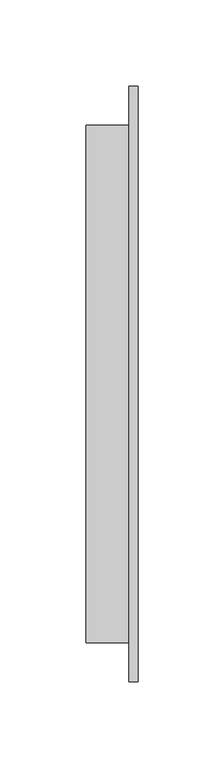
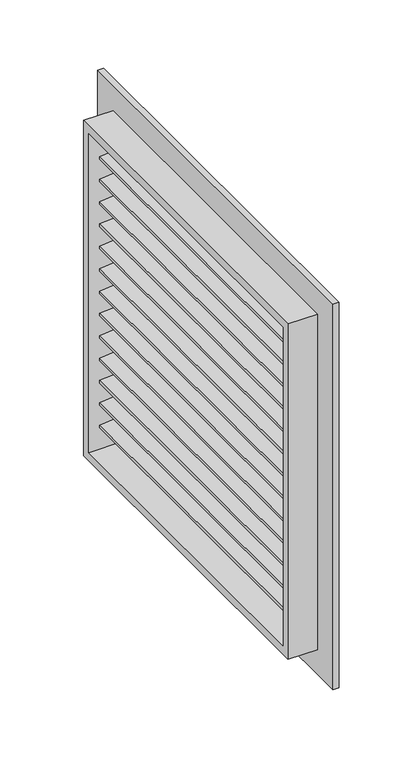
"""IFC4 building model written with IfcOpenShell, lengths in millimetres: air terminal geometry, BL_РешеткаПрямоугольная_Приточная_LVO : BL_РешеткаПрямоугольная_Приточная_LVO."""

from ifc_helpers import new_model, si_unit, point, frame, frame_2d, origin, place, context, project, spatial, polyline, circle_curve, trimmed, segment, composite_curve, outline, extrude, faceted_brep, source, transform, mapped, element, save


def air_terminal_2eded44f(model_context):
    return source(origin(), model_context, "Body", "SolidModel", [
        extrude(outline(composite_curve([segment(polyline([(116.3333333, 9.5), (115.1666667, 22.391254)]), True, "CONTINUOUS"), segment(trimmed(circle_curve(frame_2d((117.5, 25.0)), 3.5), [point((115.1666667, 22.391254))], [point((119.8333333, 22.391254))], False, "CARTESIAN"), True, "CONTINUOUS"), segment(polyline([(119.8333333, 22.391254), (118.6666667, 9.5), (116.3333333, 9.5)]), True, "CONTINUOUS")], self_intersect=False)), frame((0.0, -142.5, 0.0), z_axis=(0.0, 1.0, 0.0), x_axis=(0.0, 0.0, 1.0)), (0.0, 0.0, 1.0), 285.0),
        extrude(outline(composite_curve([segment(polyline([(96.3333333, 9.5), (95.1666667, 22.391254)]), True, "CONTINUOUS"), segment(trimmed(circle_curve(frame_2d((97.5, 25.0)), 3.5), [point((95.1666667, 22.391254))], [point((99.8333333, 22.391254))], False, "CARTESIAN"), True, "CONTINUOUS"), segment(polyline([(99.8333333, 22.391254), (98.6666667, 9.5), (96.3333333, 9.5)]), True, "CONTINUOUS")], self_intersect=False)), frame((0.0, -142.5, 0.0), z_axis=(0.0, 1.0, 0.0), x_axis=(0.0, 0.0, 1.0)), (0.0, 0.0, 1.0), 285.0),
        extrude(outline(composite_curve([segment(polyline([(76.3333333, 9.5), (75.1666667, 22.391254)]), True, "CONTINUOUS"), segment(trimmed(circle_curve(frame_2d((77.5, 25.0)), 3.5), [point((75.1666667, 22.391254))], [point((79.8333333, 22.391254))], False, "CARTESIAN"), True, "CONTINUOUS"), segment(polyline([(79.8333333, 22.391254), (78.6666667, 9.5), (76.3333333, 9.5)]), True, "CONTINUOUS")], self_intersect=False)), frame((0.0, -142.5, 0.0), z_axis=(0.0, 1.0, 0.0), x_axis=(0.0, 0.0, 1.0)), (0.0, 0.0, 1.0), 285.0),
        extrude(outline(composite_curve([segment(polyline([(56.3333333, 9.5), (55.1666667, 22.391254)]), True, "CONTINUOUS"), segment(trimmed(circle_curve(frame_2d((57.5, 25.0)), 3.5), [point((55.1666667, 22.391254))], [point((59.8333333, 22.391254))], False, "CARTESIAN"), True, "CONTINUOUS"), segment(polyline([(59.8333333, 22.391254), (58.6666667, 9.5), (56.3333333, 9.5)]), True, "CONTINUOUS")], self_intersect=False)), frame((0.0, -142.5, 0.0), z_axis=(0.0, 1.0, 0.0), x_axis=(0.0, 0.0, 1.0)), (0.0, 0.0, 1.0), 285.0),
        extrude(outline(composite_curve([segment(polyline([(36.3333333, 9.5), (35.1666667, 22.391254)]), True, "CONTINUOUS"), segment(trimmed(circle_curve(frame_2d((37.5, 25.0)), 3.5), [point((35.1666667, 22.391254))], [point((39.8333333, 22.391254))], False, "CARTESIAN"), True, "CONTINUOUS"), segment(polyline([(39.8333333, 22.391254), (38.6666667, 9.5), (36.3333333, 9.5)]), True, "CONTINUOUS")], self_intersect=False)), frame((0.0, -142.5, 0.0), z_axis=(0.0, 1.0, 0.0), x_axis=(0.0, 0.0, 1.0)), (0.0, 0.0, 1.0), 285.0),
        extrude(outline(composite_curve([segment(polyline([(16.3333333, 9.5), (15.1666667, 22.391254)]), True, "CONTINUOUS"), segment(trimmed(circle_curve(frame_2d((17.5, 25.0)), 3.5), [point((15.1666667, 22.391254))], [point((19.8333333, 22.391254))], False, "CARTESIAN"), True, "CONTINUOUS"), segment(polyline([(19.8333333, 22.391254), (18.6666667, 9.5), (16.3333333, 9.5)]), True, "CONTINUOUS")], self_intersect=False)), frame((0.0, -142.5, 0.0), z_axis=(0.0, 1.0, 0.0), x_axis=(0.0, 0.0, 1.0)), (0.0, 0.0, 1.0), 285.0),
        extrude(outline(composite_curve([segment(polyline([(-3.6666667, 9.5), (-4.8333333, 22.391254)]), True, "CONTINUOUS"), segment(trimmed(circle_curve(frame_2d((-2.5, 25.0)), 3.5), [point((-4.8333333, 22.391254))], [point((-0.1666667, 22.391254))], False, "CARTESIAN"), True, "CONTINUOUS"), segment(polyline([(-0.1666667, 22.391254), (-1.3333333, 9.5), (-3.6666667, 9.5)]), True, "CONTINUOUS")], self_intersect=False)), frame((0.0, -142.5, 0.0), z_axis=(0.0, 1.0, 0.0), x_axis=(0.0, 0.0, 1.0)), (0.0, 0.0, 1.0), 285.0),
        extrude(outline(composite_curve([segment(polyline([(-23.6666667, 9.5), (-24.8333333, 22.391254)]), True, "CONTINUOUS"), segment(trimmed(circle_curve(frame_2d((-22.5, 25.0)), 3.5), [point((-24.8333333, 22.391254))], [point((-20.1666667, 22.391254))], False, "CARTESIAN"), True, "CONTINUOUS"), segment(polyline([(-20.1666667, 22.391254), (-21.3333333, 9.5), (-23.6666667, 9.5)]), True, "CONTINUOUS")], self_intersect=False)), frame((0.0, -142.5, 0.0), z_axis=(0.0, 1.0, 0.0), x_axis=(0.0, 0.0, 1.0)), (0.0, 0.0, 1.0), 285.0),
        extrude(outline(composite_curve([segment(polyline([(-43.6666667, 9.5), (-44.8333333, 22.391254)]), True, "CONTINUOUS"), segment(trimmed(circle_curve(frame_2d((-42.5, 25.0)), 3.5), [point((-44.8333333, 22.391254))], [point((-40.1666667, 22.391254))], False, "CARTESIAN"), True, "CONTINUOUS"), segment(polyline([(-40.1666667, 22.391254), (-41.3333333, 9.5), (-43.6666667, 9.5)]), True, "CONTINUOUS")], self_intersect=False)), frame((0.0, -142.5, 0.0), z_axis=(0.0, 1.0, 0.0), x_axis=(0.0, 0.0, 1.0)), (0.0, 0.0, 1.0), 285.0),
        extrude(outline(composite_curve([segment(polyline([(-63.6666667, 9.5), (-64.8333333, 22.391254)]), True, "CONTINUOUS"), segment(trimmed(circle_curve(frame_2d((-62.5, 25.0)), 3.5), [point((-64.8333333, 22.391254))], [point((-60.1666667, 22.391254))], False, "CARTESIAN"), True, "CONTINUOUS"), segment(polyline([(-60.1666667, 22.391254), (-61.3333333, 9.5), (-63.6666667, 9.5)]), True, "CONTINUOUS")], self_intersect=False)), frame((0.0, -142.5, 0.0), z_axis=(0.0, 1.0, 0.0), x_axis=(0.0, 0.0, 1.0)), (0.0, 0.0, 1.0), 285.0),
        extrude(outline(composite_curve([segment(polyline([(-83.6666667, 9.5), (-84.8333333, 22.391254)]), True, "CONTINUOUS"), segment(trimmed(circle_curve(frame_2d((-82.5, 25.0)), 3.5), [point((-84.8333333, 22.391254))], [point((-80.1666667, 22.391254))], False, "CARTESIAN"), True, "CONTINUOUS"), segment(polyline([(-80.1666667, 22.391254), (-81.3333333, 9.5), (-83.6666667, 9.5)]), True, "CONTINUOUS")], self_intersect=False)), frame((0.0, -142.5, 0.0), z_axis=(0.0, 1.0, 0.0), x_axis=(0.0, 0.0, 1.0)), (0.0, 0.0, 1.0), 285.0),
        extrude(outline(composite_curve([segment(polyline([(-103.6666667, 9.5), (-104.8333333, 22.391254)]), True, "CONTINUOUS"), segment(trimmed(circle_curve(frame_2d((-102.5, 25.0)), 3.5), [point((-104.8333333, 22.391254))], [point((-100.1666667, 22.391254))], False, "CARTESIAN"), True, "CONTINUOUS"), segment(polyline([(-100.1666667, 22.391254), (-101.3333333, 9.5), (-103.6666667, 9.5)]), True, "CONTINUOUS")], self_intersect=False)), frame((0.0, -142.5, 0.0), z_axis=(0.0, 1.0, 0.0), x_axis=(0.0, 0.0, 1.0)), (0.0, 0.0, 1.0), 285.0),
        extrude(outline(composite_curve([segment(polyline([(-123.6666667, 9.5), (-124.8333333, 22.391254)]), True, "CONTINUOUS"), segment(trimmed(circle_curve(frame_2d((-122.5, 25.0)), 3.5), [point((-124.8333333, 22.391254))], [point((-120.1666667, 22.391254))], False, "CARTESIAN"), True, "CONTINUOUS"), segment(polyline([(-120.1666667, 22.391254), (-121.3333333, 9.5), (-123.6666667, 9.5)]), True, "CONTINUOUS")], self_intersect=False)), frame((0.0, -142.5, 0.0), z_axis=(0.0, 1.0, 0.0), x_axis=(0.0, 0.0, 1.0)), (0.0, 0.0, 1.0), 285.0),
        faceted_brep([(30.0, -172.5, 172.5), (30.0, -172.5, -172.5), (30.0, 172.5, -172.5), (30.0, 172.5, 172.5), (30.0, -142.5, 142.5), (30.0, 142.5, 142.5), (30.0, 142.5, -142.5), (30.0, -142.5, -142.5), (0.0, -150.0, 150.0), (0.0, 150.0, 150.0), (0.0, 150.0, -150.0), (0.0, -150.0, -150.0), (0.0, -142.5, 142.5), (0.0, -142.5, -142.5), (0.0, 142.5, -142.5), (0.0, 142.5, 142.5), (25.0, -172.5, 172.5), (25.0, -172.5, -172.5), (25.0, 172.5, -172.5), (25.0, 172.5, 172.5), (25.0, -150.0, 150.0), (25.0, -150.0, -150.0), (25.0, 150.0, -150.0), (25.0, 150.0, 150.0)], [[[0, 1, 2, 3], [4, 5, 6, 7]], [[8, 9, 10, 11], [12, 13, 14, 15]], [[1, 0, 16, 17]], [[2, 1, 17, 18]], [[3, 2, 18, 19]], [[0, 3, 19, 16]], [[17, 16, 19, 18], [20, 21, 22, 23]], [[20, 23, 9, 8]], [[23, 22, 10, 9]], [[22, 21, 11, 10]], [[21, 20, 8, 11]], [[5, 4, 12, 15]], [[6, 5, 15, 14]], [[7, 6, 14, 13]], [[4, 7, 13, 12]]]),
    ])


if __name__ == "__main__":
    model = new_model("IFC4")
    model_context = context("Model", 3, world=origin())
    ifc_project = project(units=[si_unit("LENGTHUNIT", "METRE", prefix="MILLI")], contexts=[model_context])
    site = spatial("IfcSite", under=ifc_project)
    building = spatial("IfcBuilding", under=site)
    placement = place(None, origin())
    air_terminal_shape = air_terminal_2eded44f(model_context)
    element("IfcAirTerminal", 1, ObjectType="BL_РешеткаПрямоугольная_Приточная_LVO : BL_РешеткаПрямоугольная_Приточная_LVO", at=placement, inside=building, context=model_context, shape_type="MappedRepresentation", body=[
        mapped(air_terminal_shape, transform((0.0, 0.0, 0.0), x_axis=(1.0, 0.0, 0.0), y_axis=(0.0, 1.0, 0.0), z_axis=(0.0, 0.0, 1.0))),
    ])
    save(model, "model.ifc")
